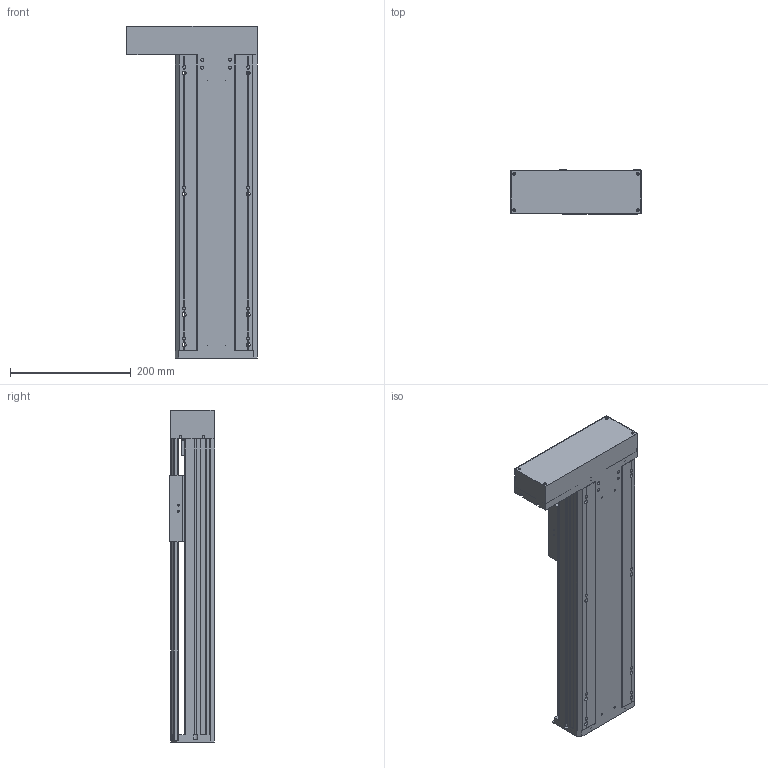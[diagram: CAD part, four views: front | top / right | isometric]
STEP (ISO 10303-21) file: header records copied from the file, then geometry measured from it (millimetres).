
FILE_DESCRIPTION(/* description */ (''),/* implementation_level */ '2;1');
FILE_NAME(/* name */ 'TKA136-FL-300_asm1.stp',/* time_stamp */ '2016-05-07T11:12:52+08:00',/* author */ (''),/* organization */ (''),/* preprocessor_version */ 'ST-DEVELOPER v15',/* originating_system */ 'SIEMENS PLM Software NX 8.5',/* authorisation */ '');
FILE_SCHEMA (('AUTOMOTIVE_DESIGN { 1 0 10303 214 3 1 1 1 }'));
Length unit declared in the file: millimetre
Products named in the file (3): 100-02; 100-01; TKA136-FL-300_asm1
Assembly tree (2 placements, depth 2):
  TKA136-FL-300_asm1
    100-01
    100-02
Bounding box: 216 x 75 x 550 mm (x, y, z)
Volume: 1869405.8 mm3; surface area: 741736.5 mm2
Topology: 2 solids, 12 shells, 870 faces, 2426 edges, 1583 vertices
Faces by surface type: plane 419, cylinder 400, cone 51
Full cylindrical faces by diameter (mm): 2.5 x14, 3 x2, 3.3 x13, 4 x4, 4.2 x6, 4.5 x24, 5 x16, 5.5 x26, 6.6 x12, 8 x20, 10 x9, 10.5 x8, 11 x4, 11.6 x1, 12 x9, 15 x3, 16 x5, 17 x1, 24 x5, 26 x1, 28 x1, 46 x1, 50 x1
Entity records: 28800 total; most frequent: CARTESIAN_POINT 7476, DIRECTION 4428, ORIENTED_EDGE 4118, EDGE_CURVE 2059, AXIS2_PLACEMENT_3D 1671, VERTEX_POINT 1472, EDGE_LOOP 1294, LINE 1086
